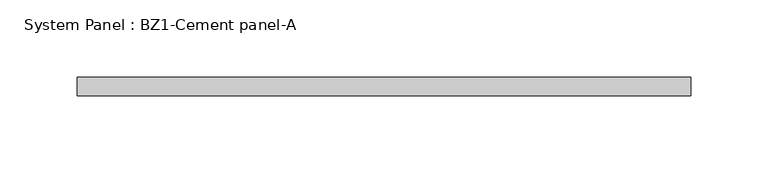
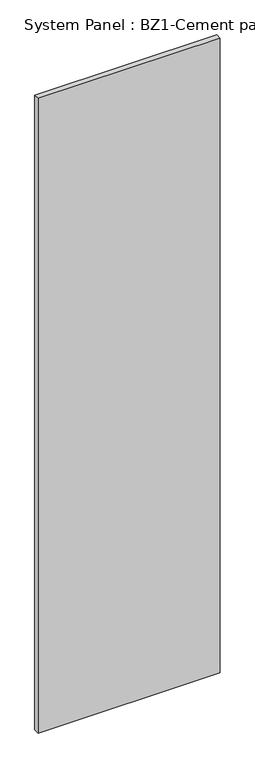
"""IFC4 building model written with IfcOpenShell, lengths in millimetres: plate geometry, System Panel : BZ1-Cement panel-A."""

import ifcopenshell
import ifcopenshell.guid

model = None  # the IFC model being written
_history = None  # IfcOwnerHistory: only IFC2X3 demands one
_inside = {}  # id of a spatial element -> (the spatial element, [elements in it])
_under = {}  # id of a project, library or spatial element -> (it, [spatial elements below it])
_declared = {}  # id of a project -> (the project, [libraries it declares])
_typed = {}  # id of a type object -> (the type object, [elements of that type])
_made_of = {}  # id of a material, layer set ... -> (it, [elements and type objects made of it])


def new_model(schema):
    """Start an empty IFC model of exactly this schema.

    Asked for "IFC4X3", IfcOpenShell would pick the latest addendum, in which some entities
    have other attributes; the version numbers below select the first issue.
    IFC2X3 requires an IfcOwnerHistory on every rooted entity: one is made here for all.
    """
    global model, _history
    if schema == "IFC4X3":
        model = ifcopenshell.file(schema_version=(4, 3, 0, 0))
    else:
        model = ifcopenshell.file(schema=schema)
    _inside.clear()
    _under.clear()
    _declared.clear()
    _typed.clear()
    _made_of.clear()
    _history = None
    if model.schema == "IFC2X3":
        org = make("IfcOrganization", Name="unknown")
        user = make(
            "IfcPersonAndOrganization",
            ThePerson=make("IfcPerson", FamilyName="unknown"),
            TheOrganization=org,
        )
        app = make(
            "IfcApplication",
            ApplicationDeveloper=org,
            Version="unknown",
            ApplicationFullName="unknown",
            ApplicationIdentifier="unknown",
        )
        _history = make(
            "IfcOwnerHistory",
            OwningUser=user,
            OwningApplication=app,
            ChangeAction="ADDED",
            CreationDate=0,
        )
    return model


def make(cls, **values):
    """One entity of the class cls with the attributes given. An attribute that is None is left unset."""
    return model.create_entity(
        cls, **{name: value for name, value in values.items() if value is not None}
    )


def rooted(cls, **values):
    """An entity with a GlobalId (a new one), such as an element, a storey or a relation."""
    return make(cls, GlobalId=ifcopenshell.guid.new(), OwnerHistory=_history, **values)


def si_unit(unit_type, name, prefix=None):
    """IfcSIUnit, for example si_unit("LENGTHUNIT", "METRE", prefix="MILLI")."""
    return make("IfcSIUnit", UnitType=unit_type, Prefix=prefix, Name=name)


def assignment(units):
    """IfcUnitAssignment: the units of a project."""
    return None if units is None else make("IfcUnitAssignment", Units=units)


def point(xyz):
    """IfcCartesianPoint."""
    return None if xyz is None else make("IfcCartesianPoint", Coordinates=xyz)


def direction(xyz):
    """IfcDirection."""
    return None if xyz is None else make("IfcDirection", DirectionRatios=xyz)


def frame(location, z_axis=None, x_axis=None):
    """IfcAxis2Placement3D, a coordinate frame: its origin and axes. An axis left out is left unset."""
    return make(
        "IfcAxis2Placement3D",
        Location=point(location),
        Axis=direction(z_axis),
        RefDirection=direction(x_axis),
    )


def origin():
    """The frame at (0, 0, 0) with its axes left unset."""
    return frame((0.0, 0.0, 0.0))


def origin_with_axes():
    """The frame at (0, 0, 0) with the z axis (0, 0, 1) and the x axis (1, 0, 0) written out."""
    return frame((0.0, 0.0, 0.0), z_axis=(0.0, 0.0, 1.0), x_axis=(1.0, 0.0, 0.0))


def place(relative_to, where):
    """IfcLocalPlacement: puts the frame where relative to a parent placement (None: the world)."""
    return make(
        "IfcLocalPlacement", PlacementRelTo=relative_to, RelativePlacement=where
    )


def context(
    kind, dimensions, precision=None, world=None, true_north=None, identifier=None
):
    """IfcGeometricRepresentationContext, for example the 3D "Model" context."""
    return make(
        "IfcGeometricRepresentationContext",
        ContextIdentifier=identifier,
        ContextType=kind,
        CoordinateSpaceDimension=dimensions,
        Precision=precision,
        WorldCoordinateSystem=world,
        TrueNorth=true_north,
    )


def project(units=None, contexts=None):
    """IfcProject with its units and contexts."""
    return rooted(
        "IfcProject",
        Name="project",
        RepresentationContexts=contexts,
        UnitsInContext=assignment(units),
    )


def spatial(cls, under=None, at=None, **own):
    """A site, building, storey or space (cls), placed at a placement, below another one or the project."""
    s = rooted(cls, ObjectPlacement=at, **own)
    if under is not None:
        _under.setdefault(under.id(), (under, []))[1].append(s)
    return s


def polyline(points):
    """IfcPolyline through the points."""
    return make("IfcPolyline", Points=[point(p) for p in points])


def outline(outer, holes=None, kind="AREA"):
    """IfcArbitraryClosedProfileDef: a profile drawn as a closed curve; with holes, ...WithVoids."""
    if holes is None:
        return make("IfcArbitraryClosedProfileDef", ProfileType=kind, OuterCurve=outer)
    return make(
        "IfcArbitraryProfileDefWithVoids",
        ProfileType=kind,
        OuterCurve=outer,
        InnerCurves=holes,
    )


def extrude(swept, where, along, depth):
    """IfcExtrudedAreaSolid: the profile swept, set in the frame where, extruded along a direction by depth."""
    return make(
        "IfcExtrudedAreaSolid",
        SweptArea=swept,
        Position=where,
        ExtrudedDirection=direction(along),
        Depth=depth,
    )


def shape(context_of_items, identifier, shape_type, items):
    """IfcShapeRepresentation: the items that make up one representation, for example the "Body"."""
    return make(
        "IfcShapeRepresentation",
        ContextOfItems=context_of_items,
        RepresentationIdentifier=identifier,
        RepresentationType=shape_type,
        Items=items,
    )


def source(mapping_origin, context_of_items, identifier, shape_type, items):
    """IfcRepresentationMap: a shape defined once, which mapped items show again and again."""
    return make(
        "IfcRepresentationMap",
        MappingOrigin=mapping_origin,
        MappedRepresentation=shape(context_of_items, identifier, shape_type, items),
    )


def transform(
    local_origin,
    x_axis=None,
    y_axis=None,
    z_axis=None,
    scale=None,
    scale2=None,
    scale3=None,
    uniform=True,
):
    """IfcCartesianTransformationOperator3D, or its non-uniform kind. x_axis, y_axis, z_axis: its Axis1, 2, 3."""
    if uniform:
        return make(
            "IfcCartesianTransformationOperator3D",
            Axis1=direction(x_axis),
            Axis2=direction(y_axis),
            LocalOrigin=point(local_origin),
            Scale=scale,
            Axis3=direction(z_axis),
        )
    return make(
        "IfcCartesianTransformationOperator3DnonUniform",
        Axis1=direction(x_axis),
        Axis2=direction(y_axis),
        LocalOrigin=point(local_origin),
        Scale=scale,
        Axis3=direction(z_axis),
        Scale2=scale2,
        Scale3=scale3,
    )


def mapped(mapping_source, mapping_target):
    """IfcMappedItem: shows the shape of a source again, moved by a transform."""
    return make(
        "IfcMappedItem", MappingSource=mapping_source, MappingTarget=mapping_target
    )


def made_of(thing, what):
    """Note that an element or type object is made of a material, layer set ...; save() writes the relation."""
    if what is not None:
        _made_of.setdefault(what.id(), (what, []))[1].append(thing)
    return thing


def element(
    cls,
    number,
    at=None,
    inside=None,
    cuts=None,
    type_object=None,
    material=None,
    context=None,
    identifier="Body",
    shape_type=None,
    held_by="IfcProductDefinitionShape",
    body=None,
    shapes=None,
    **own,
):
    """One element of the class cls, such as IfcWall. Its Tag is "e" and its number.

    at: its placement. inside: the storey or other place that contains it. cuts: it is an
    opening in that element (IfcRelVoidsElement). A single representation is given by context,
    identifier, shape_type and body (its items); several are given by shapes. held_by: the class
    of the entity that holds the representations. save() writes the other relations.
    """
    e = rooted(cls, Tag="e%d" % number, ObjectPlacement=at, **own)
    if body is not None:
        shapes = [shape(context, identifier, shape_type, body)]
    if shapes is not None:
        e.Representation = make(held_by, Representations=shapes)
    if inside is not None:
        _inside.setdefault(inside.id(), (inside, []))[1].append(e)
    if cuts is not None:
        rooted(
            "IfcRelVoidsElement", RelatingBuildingElement=cuts, RelatedOpeningElement=e
        )
    if type_object is not None:
        _typed.setdefault(type_object.id(), (type_object, []))[1].append(e)
    return made_of(e, material)


def aggregate(whole, parts):
    """IfcRelAggregates: a whole, such as a stair, and the parts it consists of."""
    return rooted("IfcRelAggregates", RelatingObject=whole, RelatedObjects=parts)


def save(model, path):
    """Write the relations noted so far, then the file.

    IfcRelAggregates (storeys below a building ...), IfcRelContainedInSpatialStructure (elements
    in a storey), IfcRelDefinesByType, IfcRelAssociatesMaterial and IfcRelDeclares: one each for
    every whole, place, type object, material and project.
    """
    for whole, parts in _under.values():
        aggregate(whole, parts)
    for where, things in _inside.values():
        rooted(
            "IfcRelContainedInSpatialStructure",
            RelatedElements=things,
            RelatingStructure=where,
        )
    for kind, things in _typed.values():
        rooted("IfcRelDefinesByType", RelatedObjects=things, RelatingType=kind)
    for what, things in _made_of.values():
        rooted("IfcRelAssociatesMaterial", RelatedObjects=things, RelatingMaterial=what)
    for by, libraries in _declared.values():
        rooted("IfcRelDeclares", RelatingContext=by, RelatedDefinitions=libraries)
    model.write(path)


def system_panel_bz1_cement_panel_a_4b41b399(model_context):
    return source(origin(), model_context, "Body", "SweptSolid", [
        extrude(outline(polyline([(198.0541097, -2.0), (-198.0541097, -2.0), (-198.0541097, 10.0), (198.0541097, 10.0), (198.0541097, -2.0)])), origin_with_axes(), (0.0, 0.0, 1.0), 1457.28125),
    ])


if __name__ == "__main__":
    model = new_model("IFC4")
    model_context = context("Model", 3, world=origin())
    ifc_project = project(units=[si_unit("LENGTHUNIT", "METRE", prefix="MILLI")], contexts=[model_context])
    site = spatial("IfcSite", under=ifc_project)
    building = spatial("IfcBuilding", under=site)
    placement = place(None, origin())
    system_panel_bz1_cement_panel_a_shape = system_panel_bz1_cement_panel_a_4b41b399(model_context)
    element("IfcPlate", 1, ObjectType="System Panel : BZ1-Cement panel-A", at=placement, inside=building, context=model_context, shape_type="MappedRepresentation", body=[
        mapped(system_panel_bz1_cement_panel_a_shape, transform((0.0, 0.0, 0.0), x_axis=(1.0, 0.0, 0.0), y_axis=(0.0, 1.0, 0.0), z_axis=(0.0, 0.0, 1.0))),
    ])
    save(model, "model.ifc")
